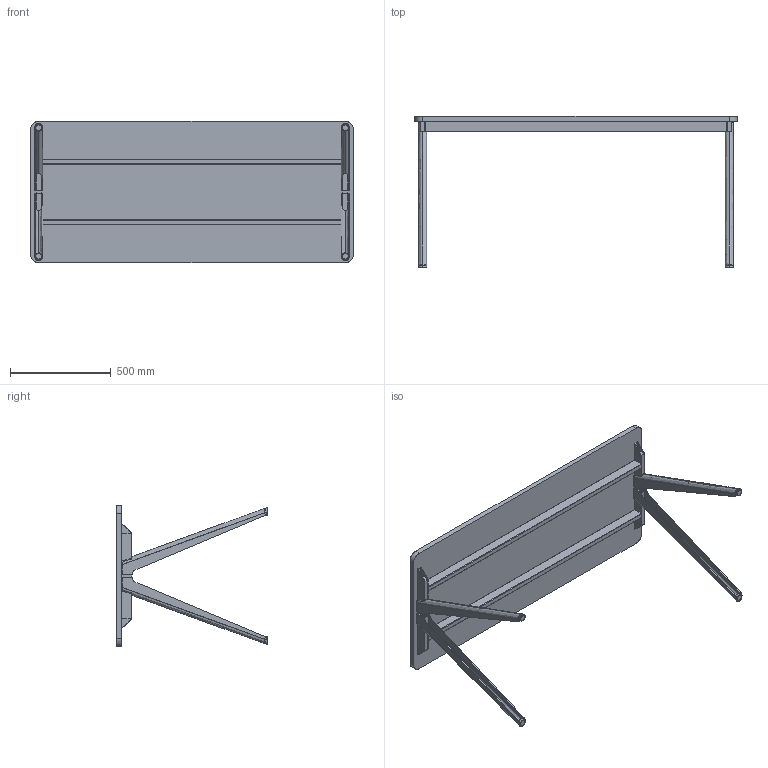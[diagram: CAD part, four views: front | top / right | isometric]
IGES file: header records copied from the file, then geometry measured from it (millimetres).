
Start section: SolidWorks IGES file using analytic representation for surfaces
Global section: file name: C:\Users\simone.cerana\OneDrive - Gruppo Tecno\Desktop\CHINA\DISEGNI DI SERIE\ASSIEMI LISTINO\HORIZON LISTINO\HO1607ST.IGS; native system: SolidWorks 2024; preprocessor: SolidWorks 2024; author: simone.cerana; date: 260508.124050; units: millimetre
Bounding box: 1600 x 749.83 x 700 mm (x, y, z)
Surface area: 3548000.1 mm2 (no closed solid volume)
Topology: 0 solids, 0 shells, 252 faces, 3496 edges, 3496 vertices
Faces by surface type: bspline 166, revolution 86
